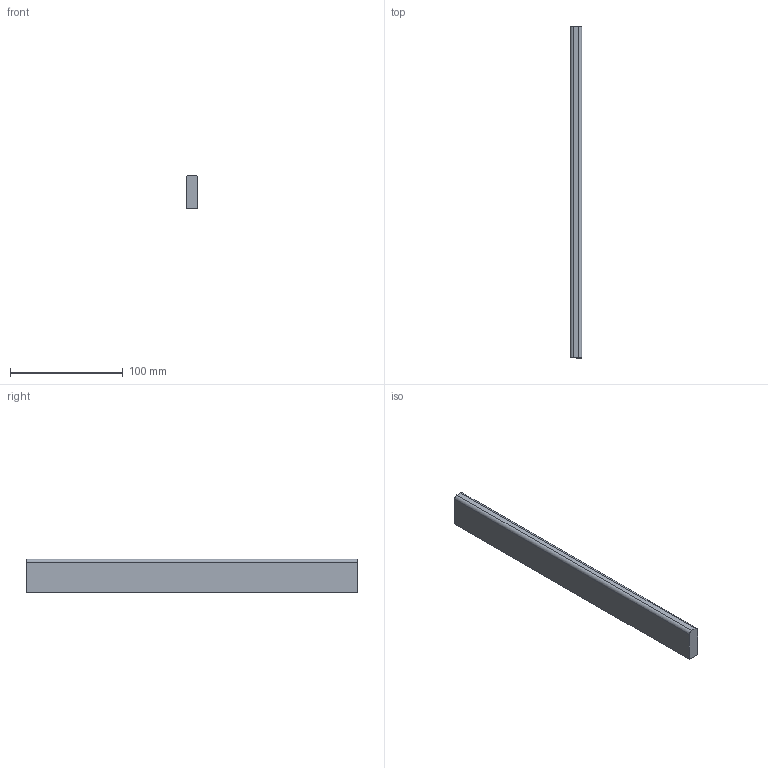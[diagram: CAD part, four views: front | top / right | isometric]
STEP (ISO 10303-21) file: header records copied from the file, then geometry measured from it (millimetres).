
FILE_DESCRIPTION (( 'STEP AP214' ), '1' );
FILE_NAME ('_Seitenreling_SP60700300_RL295.step', '2010-09-06T14:52:13', ( 'grass' ), ( '' ), 'SwSTEP 2.0', 'SolidWorks 2010', '' );
FILE_SCHEMA (( 'AUTOMOTIVE_DESIGN' ));
Length unit declared in the file: millimetre
Products named in the file (1): _Seitenreling_SP60700300_RL295
Bounding box: 10.5 x 295 x 30 mm (x, y, z)
Volume: 91785.5 mm3; surface area: 23757.6 mm2
Topology: 1 solids, 1 shells, 8 faces, 18 edges, 12 vertices
Faces by surface type: plane 6, cylinder 2
Entity records: 260 total; most frequent: DIRECTION 40, CARTESIAN_POINT 39, ORIENTED_EDGE 36, EDGE_CURVE 18, LINE 14, VECTOR 14, AXIS2_PLACEMENT_3D 13, VERTEX_POINT 12
